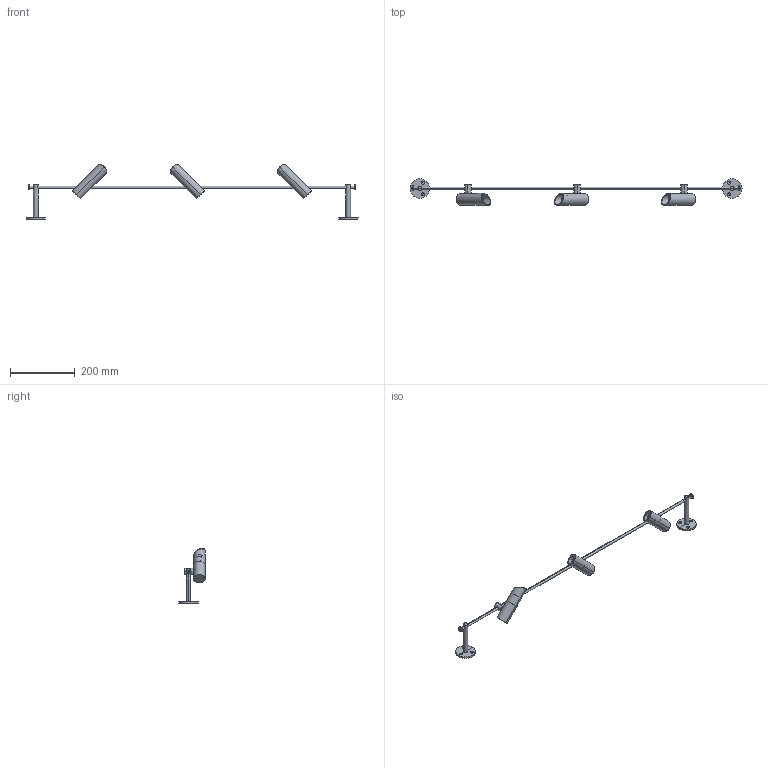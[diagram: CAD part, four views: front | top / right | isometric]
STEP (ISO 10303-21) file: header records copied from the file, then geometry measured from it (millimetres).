
FILE_DESCRIPTION(/* description */ (''),/* implementation_level */ '2;1');
FILE_NAME(/* name */ 'clap_linear_walllamp.step',/* time_stamp */ '2025-02-26T16:26:26+01:00',/* author */ ('RenataManzini'),/* organization */ (''),/* preprocessor_version */ 'ST-DEVELOPER v20',/* originating_system */ 'AutoCAD Mechanical',/* authorisation */ '');
FILE_SCHEMA (('AUTOMOTIVE_DESIGN { 1 0 10303 214 3 1 1 }'));
Length unit declared in the file: millimetre
Products named in the file (1): Product
Bounding box: 1022 x 81.46 x 169.02 mm (x, y, z)
Volume: 393979.2 mm3; surface area: 129785.1 mm2
Topology: 21 solids, 21 shells, 197 faces, 347 edges, 191 vertices
Faces by surface type: plane 101, cylinder 72, cone 24
Entity records: 5309 total; most frequent: CARTESIAN_POINT 1463, DIRECTION 866, ORIENTED_EDGE 688, AXIS2_PLACEMENT_3D 355, EDGE_CURVE 344, EDGE_LOOP 206, FACE_OUTER_BOUND 197, ADVANCED_FACE 197
